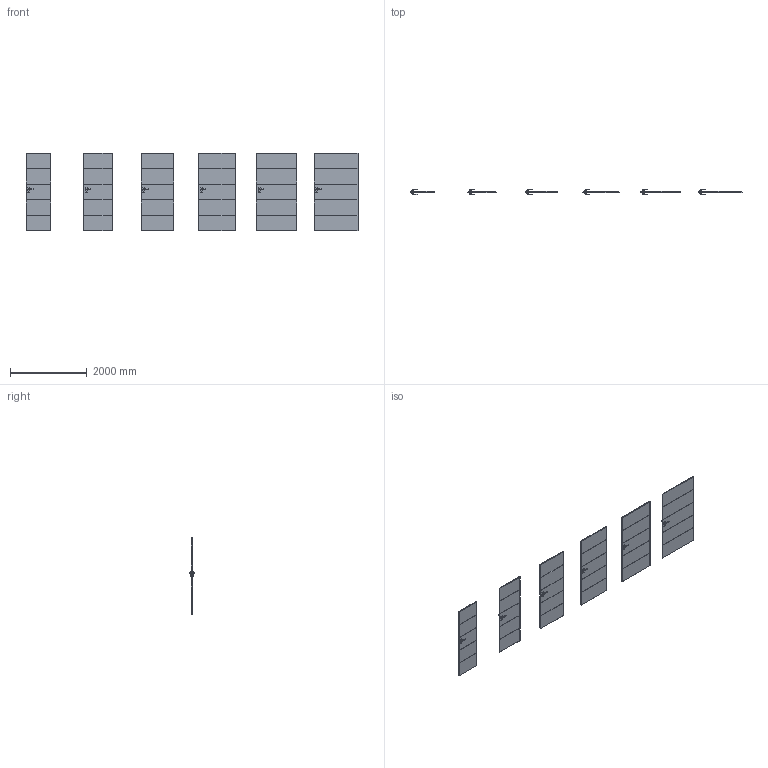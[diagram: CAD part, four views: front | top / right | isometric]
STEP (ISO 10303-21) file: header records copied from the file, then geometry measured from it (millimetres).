
FILE_DESCRIPTION(/* description */ (''),/* implementation_level */ '2;1');
FILE_NAME(/* name */ '049690_A_2-Skrzydło VECTOR E_ polska norma _PN__ przylgowe..stp',/* time_stamp */ '2024-02-09T10:00:38+01:00',/* author */ (''),/* organization */ (''),/* preprocessor_version */ 'ST-DEVELOPER v16',/* originating_system */ 'SIEMENS PLM Software NX 11.0',/* authorisation */ '');
FILE_SCHEMA (('AUTOMOTIVE_DESIGN { 1 0 10303 214 3 1 1 1 }'));
Length unit declared in the file: millimetre
Products named in the file (1): bkni8EE4756Akzht
Bounding box: 8644 x 153.27 x 2030 mm (x, y, z)
Volume: 418383373 mm3; surface area: 23486962.9 mm2
Topology: 30 solids, 30 shells, 1464 faces, 3768 edges, 2328 vertices
Faces by surface type: plane 648, cylinder 456, bspline 192, sphere 168
Entity records: 49953 total; most frequent: CARTESIAN_POINT 15649, ORIENTED_EDGE 7032, DIRECTION 6926, EDGE_CURVE 3516, AXIS2_PLACEMENT_3D 2413, VERTEX_POINT 2160, LINE 2100, VECTOR 2100
